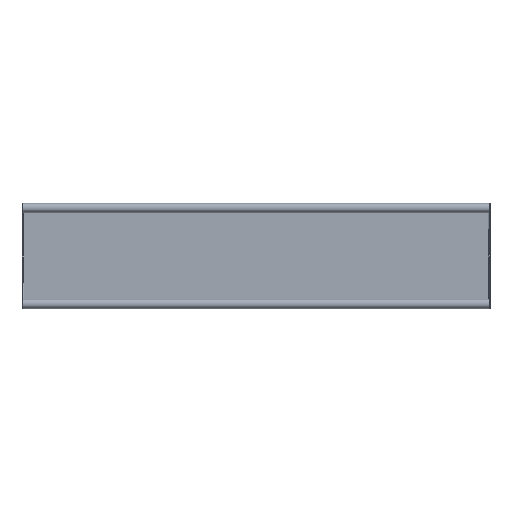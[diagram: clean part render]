
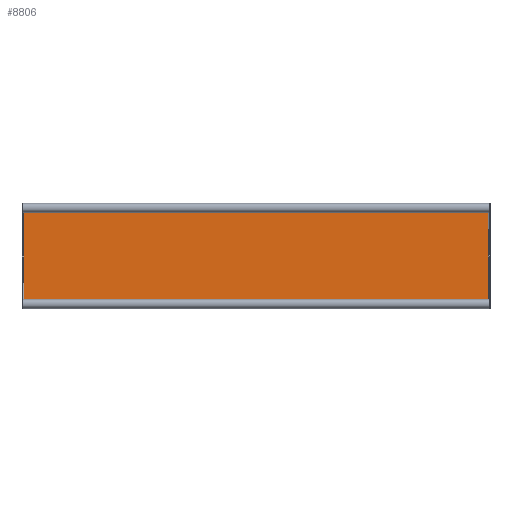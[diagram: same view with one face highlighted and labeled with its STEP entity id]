
A CAD part, front view. The second image highlights one B-rep face of the part: STEP entity #8806.
In plain terms, the highlighted planar face has unit normal (0, -1, 0).
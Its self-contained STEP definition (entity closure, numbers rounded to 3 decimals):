
#35 = EDGE_CURVE ( 'NONE', #5742, #2021, #3851, .T. ) ;
#39 = DIRECTION ( 'NONE',  ( 0., 1., 0. ) ) ;
#47 = DIRECTION ( 'NONE',  ( 1., 0., 0. ) ) ;
#64 = CARTESIAN_POINT ( 'NONE',  ( -496., -2., -111.5 ) ) ;
#192 = AXIS2_PLACEMENT_3D ( 'NONE', #693, #39, #1595 ) ;
#372 = VERTEX_POINT ( 'NONE', #1792 ) ;
#652 = CARTESIAN_POINT ( 'NONE',  ( 496., -2., 107.5 ) ) ;
#693 = CARTESIAN_POINT ( 'NONE',  ( -499., -2., -111.5 ) ) ;
#923 = CIRCLE ( 'NONE', #3957, 5. ) ;
#975 = LINE ( 'NONE', #7856, #4362 ) ;
#1152 = ORIENTED_EDGE ( 'NONE', *, *, #6723, .F. ) ;
#1312 = AXIS2_PLACEMENT_3D ( 'NONE', #2766, #5817, #7373 ) ;
#1361 = LINE ( 'NONE', #7526, #8222 ) ;
#1443 = FACE_OUTER_BOUND ( 'NONE', #8635, .T. ) ;
#1468 = ORIENTED_EDGE ( 'NONE', *, *, #8736, .F. ) ;
#1595 = DIRECTION ( 'NONE',  ( 0., 0., 1. ) ) ;
#1792 = CARTESIAN_POINT ( 'NONE',  ( -495., -2., 108.5 ) ) ;
#2021 = VERTEX_POINT ( 'NONE', #8539 ) ;
#2114 = VECTOR ( 'NONE', #47, 1000. ) ;
#2226 = VERTEX_POINT ( 'NONE', #652 ) ;
#2676 = DIRECTION ( 'NONE',  ( 0., -1., 0. ) ) ;
#2766 = CARTESIAN_POINT ( 'NONE',  ( 499., -2., -111.5 ) ) ;
#2846 = CARTESIAN_POINT ( 'NONE',  ( 496., -2., -107.5 ) ) ;
#3408 = DIRECTION ( 'NONE',  ( 0., -1., 0. ) ) ;
#3566 = ORIENTED_EDGE ( 'NONE', *, *, #7740, .T. ) ;
#3610 = VERTEX_POINT ( 'NONE', #2846 ) ;
#3851 = LINE ( 'NONE', #6916, #2114 ) ;
#3860 = CIRCLE ( 'NONE', #6420, 5. ) ;
#3932 = DIRECTION ( 'NONE',  ( 1., 0., 0. ) ) ;
#3957 = AXIS2_PLACEMENT_3D ( 'NONE', #4545, #4587, #7646 ) ;
#4049 = ORIENTED_EDGE ( 'NONE', *, *, #35, .T. ) ;
#4362 = VECTOR ( 'NONE', #3932, 1000. ) ;
#4505 = VERTEX_POINT ( 'NONE', #9564 ) ;
#4545 = CARTESIAN_POINT ( 'NONE',  ( -499., -2., -111.5 ) ) ;
#4583 = EDGE_CURVE ( 'NONE', #5742, #4505, #923, .T. ) ;
#4587 = DIRECTION ( 'NONE',  ( 0., -1., 0. ) ) ;
#4825 = CIRCLE ( 'NONE', #1312, 5. ) ;
#5225 = VERTEX_POINT ( 'NONE', #6676 ) ;
#5653 = CARTESIAN_POINT ( 'NONE',  ( -496., -2., 107.5 ) ) ;
#5677 = DIRECTION ( 'NONE',  ( 0., 0., 1. ) ) ;
#5742 = VERTEX_POINT ( 'NONE', #7218 ) ;
#5754 = VERTEX_POINT ( 'NONE', #5653 ) ;
#5817 = DIRECTION ( 'NONE',  ( 0., -1., 0. ) ) ;
#6002 = ORIENTED_EDGE ( 'NONE', *, *, #4583, .F. ) ;
#6093 = ORIENTED_EDGE ( 'NONE', *, *, #7299, .F. ) ;
#6271 = VECTOR ( 'NONE', #8477, 1000. ) ;
#6420 = AXIS2_PLACEMENT_3D ( 'NONE', #8026, #3408, #8906 ) ;
#6529 = CARTESIAN_POINT ( 'NONE',  ( 499., -2., 111.5 ) ) ;
#6580 = ORIENTED_EDGE ( 'NONE', *, *, #9096, .F. ) ;
#6676 = CARTESIAN_POINT ( 'NONE',  ( 495., -2., 108.5 ) ) ;
#6723 = EDGE_CURVE ( 'NONE', #5754, #372, #3860, .T. ) ;
#6916 = CARTESIAN_POINT ( 'NONE',  ( -499., -2., -108.5 ) ) ;
#7218 = CARTESIAN_POINT ( 'NONE',  ( -495., -2., -108.5 ) ) ;
#7299 = EDGE_CURVE ( 'NONE', #5225, #2226, #8205, .T. ) ;
#7373 = DIRECTION ( 'NONE',  ( 0., 0., 1. ) ) ;
#7435 = EDGE_CURVE ( 'NONE', #4505, #5754, #7747, .T. ) ;
#7526 = CARTESIAN_POINT ( 'NONE',  ( 496., -2., -111.5 ) ) ;
#7569 = PLANE ( 'NONE',  #192 ) ;
#7646 = DIRECTION ( 'NONE',  ( 0., 0., 1. ) ) ;
#7740 = EDGE_CURVE ( 'NONE', #3610, #2226, #1361, .T. ) ;
#7747 = LINE ( 'NONE', #64, #6271 ) ;
#7856 = CARTESIAN_POINT ( 'NONE',  ( -499., -2., 108.5 ) ) ;
#8026 = CARTESIAN_POINT ( 'NONE',  ( -499., -2., 111.5 ) ) ;
#8205 = CIRCLE ( 'NONE', #9316, 5. ) ;
#8222 = VECTOR ( 'NONE', #9746, 1000. ) ;
#8477 = DIRECTION ( 'NONE',  ( 0., 0., 1. ) ) ;
#8539 = CARTESIAN_POINT ( 'NONE',  ( 495., -2., -108.5 ) ) ;
#8635 = EDGE_LOOP ( 'NONE', ( #1468, #3566, #6093, #6580, #1152, #8946, #6002, #4049 ) ) ;
#8736 = EDGE_CURVE ( 'NONE', #3610, #2021, #4825, .T. ) ;
#8806 = ADVANCED_FACE ( 'NONE', ( #1443 ), #7569, .F. ) ;
#8906 = DIRECTION ( 'NONE',  ( 0., 0., 1. ) ) ;
#8946 = ORIENTED_EDGE ( 'NONE', *, *, #7435, .F. ) ;
#9096 = EDGE_CURVE ( 'NONE', #372, #5225, #975, .T. ) ;
#9316 = AXIS2_PLACEMENT_3D ( 'NONE', #6529, #2676, #5677 ) ;
#9564 = CARTESIAN_POINT ( 'NONE',  ( -496., -2., -107.5 ) ) ;
#9746 = DIRECTION ( 'NONE',  ( 0., 0., 1. ) ) ;
